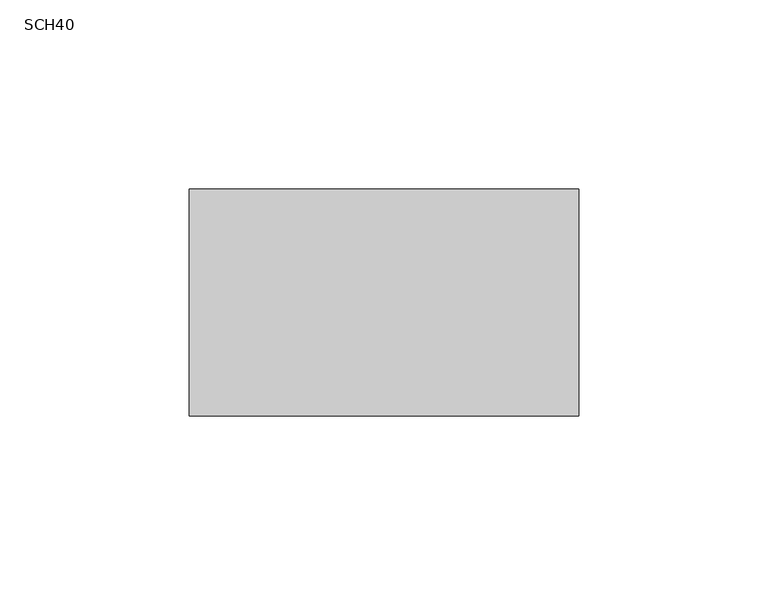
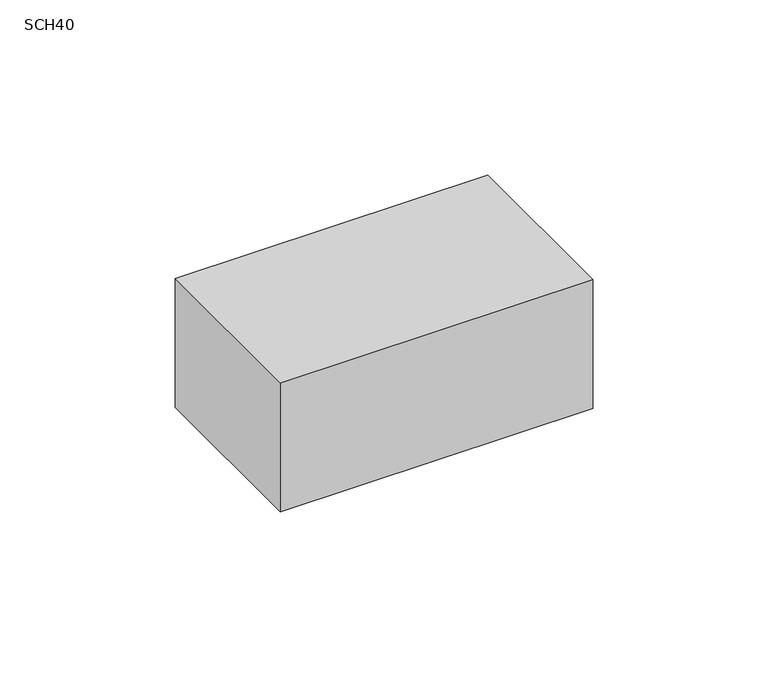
"""IFC4 building model written with IfcOpenShell, lengths in millimetres: pipe fitting geometry, PavcoWavin_PipeFittings_CajaSencilla_Cruz : SCH40."""

from ifc_helpers import new_model, si_unit, frame, origin, place, context, project, spatial, polyline, outline, extrude, source, transform, mapped, element, save


def sch40_db8eccb7(model_context):
    return source(origin(), model_context, "Body", "SweptSolid", [
        extrude(outline(polyline([(51.5, 30.0), (51.5, -30.0), (-51.5, -30.0), (-51.5, 30.0), (51.5, 30.0)])), frame((0.0, 0.0, -22.5), z_axis=(0.0, 0.0, 1.0), x_axis=(1.0, 0.0, 0.0)), (0.0, 0.0, 1.0), 45.0),
    ])


if __name__ == "__main__":
    model = new_model("IFC4")
    model_context = context("Model", 3, world=origin())
    ifc_project = project(units=[si_unit("LENGTHUNIT", "METRE", prefix="MILLI")], contexts=[model_context])
    site = spatial("IfcSite", under=ifc_project)
    building = spatial("IfcBuilding", under=site)
    placement = place(None, origin())
    sch40_shape = sch40_db8eccb7(model_context)
    element("IfcPipeFitting", 1, ObjectType="PavcoWavin_PipeFittings_CajaSencilla_Cruz : SCH40", at=placement, inside=building, context=model_context, shape_type="MappedRepresentation", body=[
        mapped(sch40_shape, transform((0.0, 0.0, 0.0), x_axis=(1.0, 0.0, 0.0), y_axis=(0.0, 1.0, 0.0), z_axis=(0.0, 0.0, 1.0))),
    ])
    save(model, "model.ifc")
